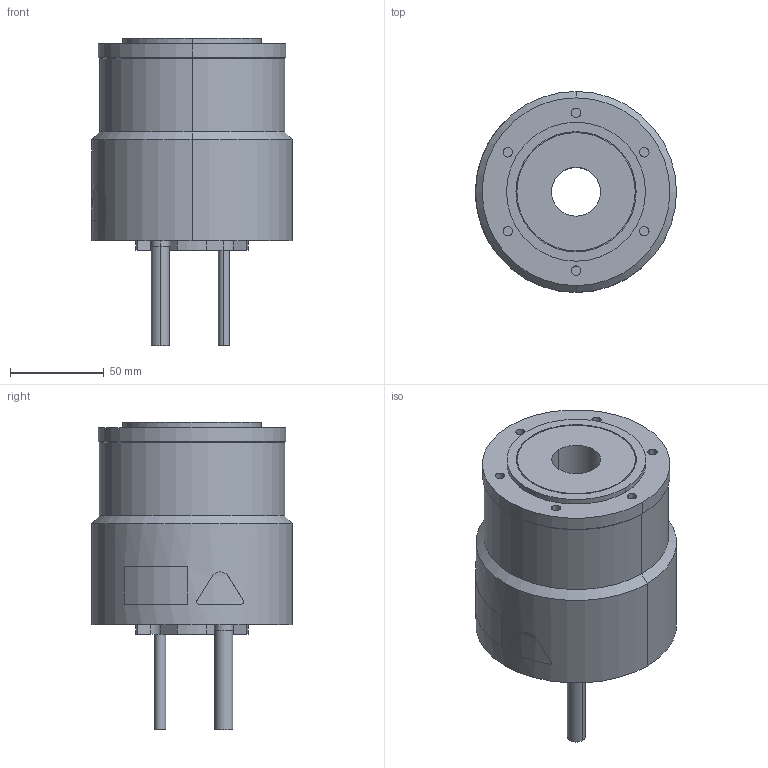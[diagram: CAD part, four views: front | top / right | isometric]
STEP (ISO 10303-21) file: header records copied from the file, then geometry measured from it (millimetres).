
FILE_DESCRIPTION (( 'STEP AP203' ), '1' );
FILE_NAME ('sgm7d_02k_c5_.STEP', '2016-02-23T02:32:41', ( '' ), ( '' ), 'SwSTEP 2.0', 'SolidWorks 2010', '' );
FILE_SCHEMA (( 'CONFIG_CONTROL_DESIGN' ));
Length unit declared in the file: millimetre
Products named in the file (1): sgm7d_02k_c5_
Bounding box: 107.04 x 107 x 164 mm (x, y, z)
Volume: 843446.3 mm3; surface area: 67065.5 mm2
Topology: 1 solids, 1 shells, 123 faces, 277 edges, 182 vertices
Faces by surface type: cylinder 71, plane 43, bspline 5, cone 4
Entity records: 3932 total; most frequent: CARTESIAN_POINT 998, DIRECTION 643, ORIENTED_EDGE 554, EDGE_CURVE 277, AXIS2_PLACEMENT_3D 263, VERTEX_POINT 182, EDGE_LOOP 151, CIRCLE 144
